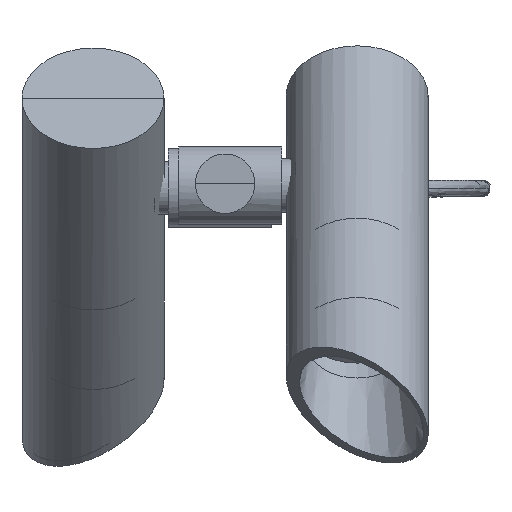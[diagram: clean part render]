
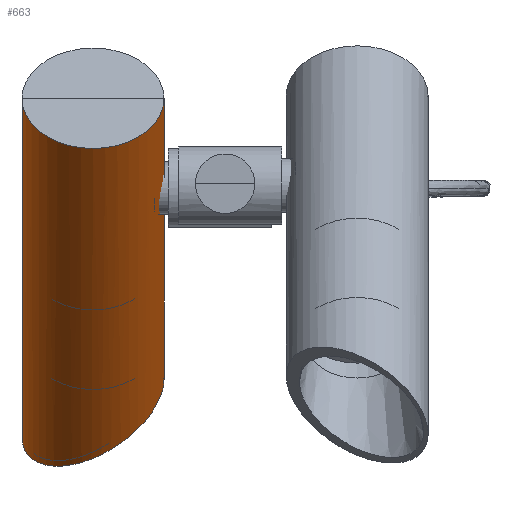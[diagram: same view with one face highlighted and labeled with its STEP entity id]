
A CAD part, top view. The second image highlights one B-rep face of the part: STEP entity #663.
In plain terms, the highlighted cylindrical face has radius 17.994 mm (diameter 35.987 mm), a partial arc.
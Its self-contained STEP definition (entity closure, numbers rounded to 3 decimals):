
#39=ELLIPSE('',#739,20.777,17.994);
#82=CYLINDRICAL_SURFACE('',#745,17.994);
#119=FACE_OUTER_BOUND('',#171,.T.);
#171=EDGE_LOOP('',(#528,#529,#530,#531));
#215=CIRCLE('',#746,17.994);
#248=LINE('',#2252,#284);
#249=LINE('',#2253,#285);
#284=VECTOR('',#912,304.8);
#285=VECTOR('',#913,304.8);
#324=VERTEX_POINT('',#2240);
#325=VERTEX_POINT('',#2241);
#328=VERTEX_POINT('',#2249);
#329=VERTEX_POINT('',#2250);
#392=EDGE_CURVE('',#324,#325,#39,.T.);
#397=EDGE_CURVE('',#325,#328,#248,.T.);
#398=EDGE_CURVE('',#329,#324,#249,.T.);
#399=EDGE_CURVE('',#329,#328,#215,.T.);
#528=ORIENTED_EDGE('',*,*,#399,.F.);
#529=ORIENTED_EDGE('',*,*,#398,.T.);
#530=ORIENTED_EDGE('',*,*,#392,.T.);
#531=ORIENTED_EDGE('',*,*,#397,.T.);
#663=ADVANCED_FACE('',(#119),#82,.T.);
#739=AXIS2_PLACEMENT_3D('',#2242,#900,#901);
#745=AXIS2_PLACEMENT_3D('',#2254,#914,#915);
#746=AXIS2_PLACEMENT_3D('',#2255,#916,#917);
#900=DIRECTION('center_axis',(0.612,-0.612,0.5));
#901=DIRECTION('ref_axis',(-0.354,0.354,0.866));
#912=DIRECTION('',(0.707,-0.707,0.));
#913=DIRECTION('',(-0.707,0.707,0.));
#914=DIRECTION('center_axis',(0.707,-0.707,0.));
#915=DIRECTION('ref_axis',(0.,0.,1.));
#916=DIRECTION('center_axis',(0.707,-0.707,0.));
#917=DIRECTION('ref_axis',(0.,0.,1.));
#2240=CARTESIAN_POINT('',(-63.063,63.063,63.165));
#2241=CARTESIAN_POINT('',(-48.372,48.372,27.177));
#2242=CARTESIAN_POINT('Origin',(-55.717,55.717,45.171));
#2249=CARTESIAN_POINT('',(22.664,-22.664,27.177));
#2250=CARTESIAN_POINT('',(22.664,-22.664,63.165));
#2252=CARTESIAN_POINT('',(-48.372,48.372,27.177));
#2253=CARTESIAN_POINT('',(22.664,-22.664,63.165));
#2254=CARTESIAN_POINT('Origin',(-33.403,33.403,45.171));
#2255=CARTESIAN_POINT('Origin',(22.664,-22.664,45.171));
